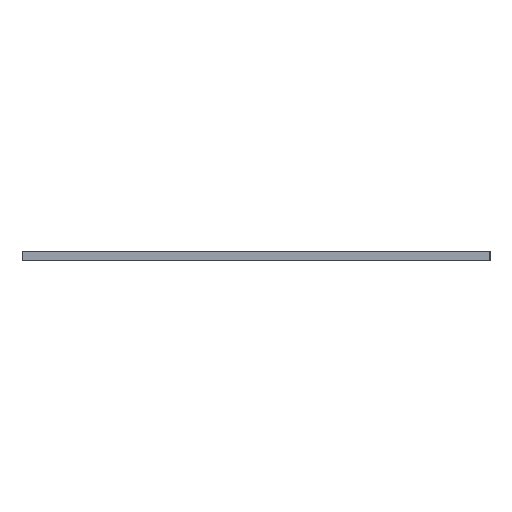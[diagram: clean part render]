
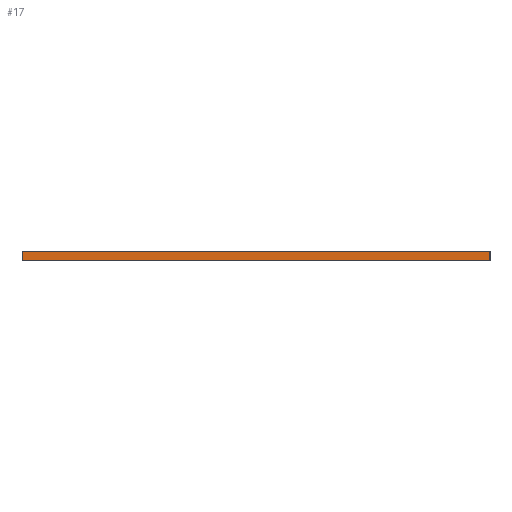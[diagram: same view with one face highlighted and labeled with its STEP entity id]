
A CAD part, left-side view. The second image highlights one B-rep face of the part: STEP entity #17.
In plain terms, the highlighted planar face has unit normal (-1, 0, 0).
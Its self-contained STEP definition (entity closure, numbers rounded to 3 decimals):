
#17 = ADVANCED_FACE('',(#18),#32,.F.);
#18 = FACE_BOUND('',#19,.F.);
#19 = EDGE_LOOP('',(#20,#55,#83,#111));
#20 = ORIENTED_EDGE('',*,*,#21,.F.);
#21 = EDGE_CURVE('',#22,#24,#26,.T.);
#22 = VERTEX_POINT('',#23);
#23 = CARTESIAN_POINT('',(-163.,-3.,706.));
#24 = VERTEX_POINT('',#25);
#25 = CARTESIAN_POINT('',(-163.,-3.,712.));
#26 = SURFACE_CURVE('',#27,(#31,#43),.PCURVE_S1.);
#27 = LINE('',#28,#29);
#28 = CARTESIAN_POINT('',(-163.,-3.,706.));
#29 = VECTOR('',#30,1.);
#30 = DIRECTION('',(0.,0.,1.));
#31 = PCURVE('',#32,#37);
#32 = PLANE('',#33);
#33 = AXIS2_PLACEMENT_3D('',#34,#35,#36);
#34 = CARTESIAN_POINT('',(-163.,-3.,706.));
#35 = DIRECTION('',(1.,0.,0.));
#36 = DIRECTION('',(0.,0.,1.));
#37 = DEFINITIONAL_REPRESENTATION('',(#38),#42);
#38 = LINE('',#39,#40);
#39 = CARTESIAN_POINT('',(0.,0.));
#40 = VECTOR('',#41,1.);
#41 = DIRECTION('',(1.,0.));
#42 = ( GEOMETRIC_REPRESENTATION_CONTEXT(2) 
PARAMETRIC_REPRESENTATION_CONTEXT() REPRESENTATION_CONTEXT('2D SPACE',''
  ) );
#43 = PCURVE('',#44,#49);
#44 = PLANE('',#45);
#45 = AXIS2_PLACEMENT_3D('',#46,#47,#48);
#46 = CARTESIAN_POINT('',(-163.,-3.,706.));
#47 = DIRECTION('',(0.,1.,0.));
#48 = DIRECTION('',(0.,0.,1.));
#49 = DEFINITIONAL_REPRESENTATION('',(#50),#54);
#50 = LINE('',#51,#52);
#51 = CARTESIAN_POINT('',(0.,0.));
#52 = VECTOR('',#53,1.);
#53 = DIRECTION('',(1.,0.));
#54 = ( GEOMETRIC_REPRESENTATION_CONTEXT(2) 
PARAMETRIC_REPRESENTATION_CONTEXT() REPRESENTATION_CONTEXT('2D SPACE',''
  ) );
#55 = ORIENTED_EDGE('',*,*,#56,.T.);
#56 = EDGE_CURVE('',#22,#57,#59,.T.);
#57 = VERTEX_POINT('',#58);
#58 = CARTESIAN_POINT('',(-163.,283.,706.));
#59 = SURFACE_CURVE('',#60,(#64,#71),.PCURVE_S1.);
#60 = LINE('',#61,#62);
#61 = CARTESIAN_POINT('',(-163.,-3.,706.));
#62 = VECTOR('',#63,1.);
#63 = DIRECTION('',(0.,1.,0.));
#64 = PCURVE('',#32,#65);
#65 = DEFINITIONAL_REPRESENTATION('',(#66),#70);
#66 = LINE('',#67,#68);
#67 = CARTESIAN_POINT('',(0.,0.));
#68 = VECTOR('',#69,1.);
#69 = DIRECTION('',(0.,-1.));
#70 = ( GEOMETRIC_REPRESENTATION_CONTEXT(2) 
PARAMETRIC_REPRESENTATION_CONTEXT() REPRESENTATION_CONTEXT('2D SPACE',''
  ) );
#71 = PCURVE('',#72,#77);
#72 = PLANE('',#73);
#73 = AXIS2_PLACEMENT_3D('',#74,#75,#76);
#74 = CARTESIAN_POINT('',(-163.,-3.,706.));
#75 = DIRECTION('',(0.,0.,1.));
#76 = DIRECTION('',(1.,0.,0.));
#77 = DEFINITIONAL_REPRESENTATION('',(#78),#82);
#78 = LINE('',#79,#80);
#79 = CARTESIAN_POINT('',(0.,0.));
#80 = VECTOR('',#81,1.);
#81 = DIRECTION('',(0.,1.));
#82 = ( GEOMETRIC_REPRESENTATION_CONTEXT(2) 
PARAMETRIC_REPRESENTATION_CONTEXT() REPRESENTATION_CONTEXT('2D SPACE',''
  ) );
#83 = ORIENTED_EDGE('',*,*,#84,.T.);
#84 = EDGE_CURVE('',#57,#85,#87,.T.);
#85 = VERTEX_POINT('',#86);
#86 = CARTESIAN_POINT('',(-163.,283.,712.));
#87 = SURFACE_CURVE('',#88,(#92,#99),.PCURVE_S1.);
#88 = LINE('',#89,#90);
#89 = CARTESIAN_POINT('',(-163.,283.,706.));
#90 = VECTOR('',#91,1.);
#91 = DIRECTION('',(0.,0.,1.));
#92 = PCURVE('',#32,#93);
#93 = DEFINITIONAL_REPRESENTATION('',(#94),#98);
#94 = LINE('',#95,#96);
#95 = CARTESIAN_POINT('',(0.,-286.));
#96 = VECTOR('',#97,1.);
#97 = DIRECTION('',(1.,0.));
#98 = ( GEOMETRIC_REPRESENTATION_CONTEXT(2) 
PARAMETRIC_REPRESENTATION_CONTEXT() REPRESENTATION_CONTEXT('2D SPACE',''
  ) );
#99 = PCURVE('',#100,#105);
#100 = PLANE('',#101);
#101 = AXIS2_PLACEMENT_3D('',#102,#103,#104);
#102 = CARTESIAN_POINT('',(-163.,283.,706.));
#103 = DIRECTION('',(0.,1.,0.));
#104 = DIRECTION('',(0.,0.,1.));
#105 = DEFINITIONAL_REPRESENTATION('',(#106),#110);
#106 = LINE('',#107,#108);
#107 = CARTESIAN_POINT('',(0.,0.));
#108 = VECTOR('',#109,1.);
#109 = DIRECTION('',(1.,0.));
#110 = ( GEOMETRIC_REPRESENTATION_CONTEXT(2) 
PARAMETRIC_REPRESENTATION_CONTEXT() REPRESENTATION_CONTEXT('2D SPACE',''
  ) );
#111 = ORIENTED_EDGE('',*,*,#112,.F.);
#112 = EDGE_CURVE('',#24,#85,#113,.T.);
#113 = SURFACE_CURVE('',#114,(#118,#125),.PCURVE_S1.);
#114 = LINE('',#115,#116);
#115 = CARTESIAN_POINT('',(-163.,-3.,712.));
#116 = VECTOR('',#117,1.);
#117 = DIRECTION('',(0.,1.,0.));
#118 = PCURVE('',#32,#119);
#119 = DEFINITIONAL_REPRESENTATION('',(#120),#124);
#120 = LINE('',#121,#122);
#121 = CARTESIAN_POINT('',(6.,0.));
#122 = VECTOR('',#123,1.);
#123 = DIRECTION('',(0.,-1.));
#124 = ( GEOMETRIC_REPRESENTATION_CONTEXT(2) 
PARAMETRIC_REPRESENTATION_CONTEXT() REPRESENTATION_CONTEXT('2D SPACE',''
  ) );
#125 = PCURVE('',#126,#131);
#126 = PLANE('',#127);
#127 = AXIS2_PLACEMENT_3D('',#128,#129,#130);
#128 = CARTESIAN_POINT('',(-163.,-3.,712.));
#129 = DIRECTION('',(0.,0.,1.));
#130 = DIRECTION('',(1.,0.,0.));
#131 = DEFINITIONAL_REPRESENTATION('',(#132),#136);
#132 = LINE('',#133,#134);
#133 = CARTESIAN_POINT('',(0.,0.));
#134 = VECTOR('',#135,1.);
#135 = DIRECTION('',(0.,1.));
#136 = ( GEOMETRIC_REPRESENTATION_CONTEXT(2) 
PARAMETRIC_REPRESENTATION_CONTEXT() REPRESENTATION_CONTEXT('2D SPACE',''
  ) );
